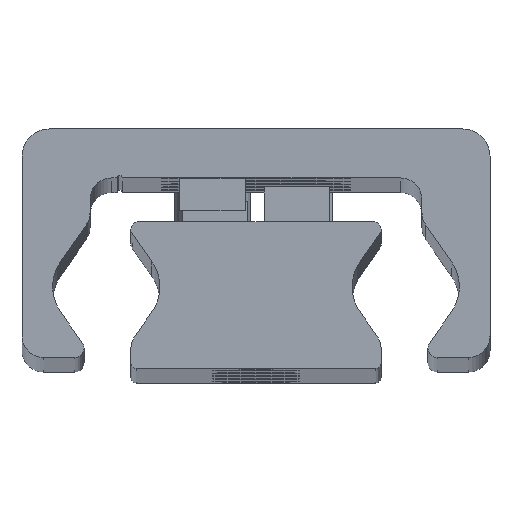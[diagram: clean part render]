
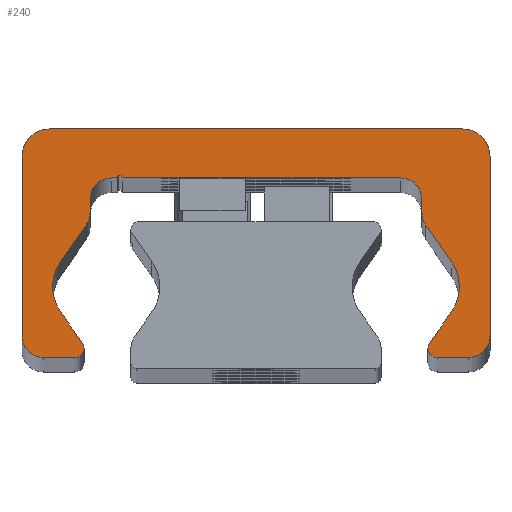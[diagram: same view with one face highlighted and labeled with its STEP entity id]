
A CAD part, top view. The second image highlights one B-rep face of the part: STEP entity #240.
In plain terms, the highlighted planar face has unit normal (0, 0, 1).
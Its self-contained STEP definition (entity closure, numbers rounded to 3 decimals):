
#240=ADVANCED_FACE('',(#638),#639,.T.);
#638=FACE_OUTER_BOUND('',#1037,.T.);
#639=PLANE('',#1038);
#1037=EDGE_LOOP('',(#2394,#2395,#2396,#2397,#2398,#2399,#2400,#2401,#2402,#2403,#2404,#2405,#2406,#2407,#2408,#2409,#2410,#2411,#2412,#2413,#2414,#2415,#2416,#2417,#2418,#2419,#2420,#2421,#2422,#2423));
#1038=AXIS2_PLACEMENT_3D('',#2424,#2425,#2426);
#2394=ORIENTED_EDGE('',*,*,#2699,.F.);
#2395=ORIENTED_EDGE('',*,*,#2902,.F.);
#2396=ORIENTED_EDGE('',*,*,#2685,.F.);
#2397=ORIENTED_EDGE('',*,*,#2901,.F.);
#2398=ORIENTED_EDGE('',*,*,#2897,.F.);
#2399=ORIENTED_EDGE('',*,*,#2894,.F.);
#2400=ORIENTED_EDGE('',*,*,#2891,.F.);
#2401=ORIENTED_EDGE('',*,*,#2888,.F.);
#2402=ORIENTED_EDGE('',*,*,#2885,.F.);
#2403=ORIENTED_EDGE('',*,*,#2882,.F.);
#2404=ORIENTED_EDGE('',*,*,#2879,.F.);
#2405=ORIENTED_EDGE('',*,*,#2876,.F.);
#2406=ORIENTED_EDGE('',*,*,#2873,.F.);
#2407=ORIENTED_EDGE('',*,*,#2870,.F.);
#2408=ORIENTED_EDGE('',*,*,#2691,.F.);
#2409=ORIENTED_EDGE('',*,*,#2868,.F.);
#2410=ORIENTED_EDGE('',*,*,#2693,.F.);
#2411=ORIENTED_EDGE('',*,*,#2867,.F.);
#2412=ORIENTED_EDGE('',*,*,#2863,.F.);
#2413=ORIENTED_EDGE('',*,*,#2860,.F.);
#2414=ORIENTED_EDGE('',*,*,#2857,.F.);
#2415=ORIENTED_EDGE('',*,*,#2854,.F.);
#2416=ORIENTED_EDGE('',*,*,#2851,.F.);
#2417=ORIENTED_EDGE('',*,*,#2848,.F.);
#2418=ORIENTED_EDGE('',*,*,#2845,.F.);
#2419=ORIENTED_EDGE('',*,*,#2842,.F.);
#2420=ORIENTED_EDGE('',*,*,#2839,.F.);
#2421=ORIENTED_EDGE('',*,*,#2836,.F.);
#2422=ORIENTED_EDGE('',*,*,#2833,.F.);
#2423=ORIENTED_EDGE('',*,*,#2830,.F.);
#2424=CARTESIAN_POINT('',(-0.023,14.187,770.0));
#2425=DIRECTION('',(0.0,0.0,1.0));
#2426=DIRECTION('',(1.0,0.0,0.0));
#2685=EDGE_CURVE('',#3264,#3267,#3268,.T.);
#2691=EDGE_CURVE('',#3277,#3273,#3279,.T.);
#2693=EDGE_CURVE('',#3280,#3283,#3284,.T.);
#2699=EDGE_CURVE('',#3293,#3289,#3295,.T.);
#2830=EDGE_CURVE('',#3289,#3506,#3507,.T.);
#2833=EDGE_CURVE('',#3506,#3511,#3512,.T.);
#2836=EDGE_CURVE('',#3511,#3516,#3517,.T.);
#2839=EDGE_CURVE('',#3516,#3521,#3522,.T.);
#2842=EDGE_CURVE('',#3521,#3526,#3527,.T.);
#2845=EDGE_CURVE('',#3526,#3531,#3532,.T.);
#2848=EDGE_CURVE('',#3531,#3536,#3537,.T.);
#2851=EDGE_CURVE('',#3536,#3541,#3542,.T.);
#2854=EDGE_CURVE('',#3541,#3546,#3547,.T.);
#2857=EDGE_CURVE('',#3546,#3551,#3552,.T.);
#2860=EDGE_CURVE('',#3551,#3556,#3557,.T.);
#2863=EDGE_CURVE('',#3556,#3561,#3562,.T.);
#2867=EDGE_CURVE('',#3561,#3280,#3567,.T.);
#2868=EDGE_CURVE('',#3283,#3277,#3568,.T.);
#2870=EDGE_CURVE('',#3273,#3570,#3571,.T.);
#2873=EDGE_CURVE('',#3570,#3575,#3576,.T.);
#2876=EDGE_CURVE('',#3575,#3580,#3581,.T.);
#2879=EDGE_CURVE('',#3580,#3585,#3586,.T.);
#2882=EDGE_CURVE('',#3585,#3590,#3591,.T.);
#2885=EDGE_CURVE('',#3590,#3595,#3596,.T.);
#2888=EDGE_CURVE('',#3595,#3600,#3601,.T.);
#2891=EDGE_CURVE('',#3600,#3605,#3606,.T.);
#2894=EDGE_CURVE('',#3605,#3610,#3611,.T.);
#2897=EDGE_CURVE('',#3610,#3615,#3616,.T.);
#2901=EDGE_CURVE('',#3615,#3264,#3621,.T.);
#2902=EDGE_CURVE('',#3267,#3293,#3622,.T.);
#3264=VERTEX_POINT('',#4104);
#3267=VERTEX_POINT('',#4108);
#3268=CIRCLE('',#4109,0.85);
#3273=VERTEX_POINT('',#4115);
#3277=VERTEX_POINT('',#4120);
#3279=CIRCLE('',#4123,0.85);
#3280=VERTEX_POINT('',#4124);
#3283=VERTEX_POINT('',#4128);
#3284=CIRCLE('',#4129,4.);
#3289=VERTEX_POINT('',#4135);
#3293=VERTEX_POINT('',#4140);
#3295=CIRCLE('',#4143,4.);
#3506=VERTEX_POINT('',#4420);
#3507=CIRCLE('',#4421,4.);
#3511=VERTEX_POINT('',#4426);
#3512=LINE('',#4427,#4428);
#3516=VERTEX_POINT('',#4434);
#3517=CIRCLE('',#4435,2.);
#3521=VERTEX_POINT('',#4440);
#3522=LINE('',#4441,#4442);
#3526=VERTEX_POINT('',#4448);
#3527=CIRCLE('',#4449,2.0);
#3531=VERTEX_POINT('',#4454);
#3532=LINE('',#4455,#4456);
#3536=VERTEX_POINT('',#4462);
#3537=CIRCLE('',#4463,0.25);
#3541=VERTEX_POINT('',#4468);
#3542=LINE('',#4469,#4470);
#3546=VERTEX_POINT('',#4476);
#3547=CIRCLE('',#4477,2.0);
#3551=VERTEX_POINT('',#4482);
#3552=LINE('',#4483,#4484);
#3556=VERTEX_POINT('',#4490);
#3557=CIRCLE('',#4491,2.0);
#3561=VERTEX_POINT('',#4496);
#3562=LINE('',#4497,#4498);
#3567=CIRCLE('',#4505,4.);
#3568=LINE('',#4506,#4507);
#3570=VERTEX_POINT('',#4510);
#3571=CIRCLE('',#4511,0.85);
#3575=VERTEX_POINT('',#4516);
#3576=LINE('',#4517,#4518);
#3580=VERTEX_POINT('',#4524);
#3581=CIRCLE('',#4525,2.);
#3585=VERTEX_POINT('',#4530);
#3586=LINE('',#4531,#4532);
#3590=VERTEX_POINT('',#4538);
#3591=CIRCLE('',#4539,2.5);
#3595=VERTEX_POINT('',#4544);
#3596=LINE('',#4545,#4546);
#3600=VERTEX_POINT('',#4552);
#3601=CIRCLE('',#4553,2.5);
#3605=VERTEX_POINT('',#4558);
#3606=LINE('',#4559,#4560);
#3610=VERTEX_POINT('',#4566);
#3611=CIRCLE('',#4567,2.);
#3615=VERTEX_POINT('',#4572);
#3616=LINE('',#4573,#4574);
#3621=CIRCLE('',#4581,0.85);
#3622=LINE('',#4582,#4583);
#4104=CARTESIAN_POINT('',(15.8,1.859,770.0));
#4108=CARTESIAN_POINT('',(15.922,2.298,770.0));
#4109=AXIS2_PLACEMENT_3D('',#5019,#5020,#5021);
#4115=CARTESIAN_POINT('',(-15.8,1.859,770.0));
#4120=CARTESIAN_POINT('',(-15.922,2.298,770.0));
#4123=AXIS2_PLACEMENT_3D('',#5031,#5032,#5033);
#4124=CARTESIAN_POINT('',(-18.688,7.509,770.0));
#4128=CARTESIAN_POINT('',(-17.964,5.214,770.0));
#4129=AXIS2_PLACEMENT_3D('',#5035,#5036,#5037);
#4135=CARTESIAN_POINT('',(18.688,7.509,770.0));
#4140=CARTESIAN_POINT('',(17.964,5.214,770.0));
#4143=AXIS2_PLACEMENT_3D('',#5047,#5048,#5049);
#4420=CARTESIAN_POINT('',(17.964,9.803,770.0));
#4421=AXIS2_PLACEMENT_3D('',#5308,#5309,#5310);
#4426=CARTESIAN_POINT('',(15.612,13.163,770.0));
#4427=CARTESIAN_POINT('',(15.612,13.163,770.0));
#4428=VECTOR('',#5315,1.0);
#4434=CARTESIAN_POINT('',(15.25,14.31,770.0));
#4435=AXIS2_PLACEMENT_3D('',#5318,#5319,#5320);
#4440=CARTESIAN_POINT('',(15.25,15.509,770.0));
#4441=CARTESIAN_POINT('',(15.25,15.509,770.0));
#4442=VECTOR('',#5325,1.0);
#4448=CARTESIAN_POINT('',(13.25,17.509,770.0));
#4449=AXIS2_PLACEMENT_3D('',#5328,#5329,#5330);
#4454=CARTESIAN_POINT('',(-12.25,17.509,770.0));
#4455=CARTESIAN_POINT('',(-12.25,17.509,770.0));
#4456=VECTOR('',#5335,1.0);
#4462=CARTESIAN_POINT('',(-12.75,17.509,770.0));
#4463=AXIS2_PLACEMENT_3D('',#5338,#5339,#5340);
#4468=CARTESIAN_POINT('',(-13.25,17.509,770.0));
#4469=CARTESIAN_POINT('',(-13.25,17.509,770.0));
#4470=VECTOR('',#5345,1.0);
#4476=CARTESIAN_POINT('',(-15.25,15.509,770.0));
#4477=AXIS2_PLACEMENT_3D('',#5348,#5349,#5350);
#4482=CARTESIAN_POINT('',(-15.25,14.31,770.0));
#4483=CARTESIAN_POINT('',(-15.25,14.31,770.0));
#4484=VECTOR('',#5355,1.0);
#4490=CARTESIAN_POINT('',(-15.612,13.163,770.0));
#4491=AXIS2_PLACEMENT_3D('',#5358,#5359,#5360);
#4496=CARTESIAN_POINT('',(-17.964,9.803,770.0));
#4497=CARTESIAN_POINT('',(-17.964,9.803,770.0));
#4498=VECTOR('',#5365,1.0);
#4505=AXIS2_PLACEMENT_3D('',#5371,#5372,#5373);
#4506=CARTESIAN_POINT('',(-15.922,2.298,770.0));
#4507=VECTOR('',#5374,1.0);
#4510=CARTESIAN_POINT('',(-16.65,1.009,770.0));
#4511=AXIS2_PLACEMENT_3D('',#5376,#5377,#5378);
#4516=CARTESIAN_POINT('',(-19.5,1.009,770.0));
#4517=CARTESIAN_POINT('',(-19.5,1.009,770.0));
#4518=VECTOR('',#5383,1.0);
#4524=CARTESIAN_POINT('',(-21.5,3.009,770.0));
#4525=AXIS2_PLACEMENT_3D('',#5386,#5387,#5388);
#4530=CARTESIAN_POINT('',(-21.5,19.509,770.0));
#4531=CARTESIAN_POINT('',(-21.5,19.509,770.0));
#4532=VECTOR('',#5393,1.0);
#4538=CARTESIAN_POINT('',(-19.0,22.009,770.0));
#4539=AXIS2_PLACEMENT_3D('',#5396,#5397,#5398);
#4544=CARTESIAN_POINT('',(19.0,22.009,770.0));
#4545=CARTESIAN_POINT('',(19.0,22.009,770.0));
#4546=VECTOR('',#5403,1.0);
#4552=CARTESIAN_POINT('',(21.5,19.509,770.0));
#4553=AXIS2_PLACEMENT_3D('',#5406,#5407,#5408);
#4558=CARTESIAN_POINT('',(21.5,3.009,770.0));
#4559=CARTESIAN_POINT('',(21.5,3.009,770.0));
#4560=VECTOR('',#5413,1.0);
#4566=CARTESIAN_POINT('',(19.5,1.009,770.0));
#4567=AXIS2_PLACEMENT_3D('',#5416,#5417,#5418);
#4572=CARTESIAN_POINT('',(16.65,1.009,770.0));
#4573=CARTESIAN_POINT('',(16.65,1.009,770.0));
#4574=VECTOR('',#5423,1.0);
#4581=AXIS2_PLACEMENT_3D('',#5429,#5430,#5431);
#4582=CARTESIAN_POINT('',(17.964,5.214,770.0));
#4583=VECTOR('',#5432,1.0);
#5019=CARTESIAN_POINT('',(16.65,1.859,770.0));
#5020=DIRECTION('',(0.0,0.0,-1.0));
#5021=DIRECTION('',(1.0,0.0,0.0));
#5031=CARTESIAN_POINT('',(-16.65,1.859,770.0));
#5032=DIRECTION('',(0.0,0.0,-1.0));
#5033=DIRECTION('',(1.0,0.0,0.0));
#5035=CARTESIAN_POINT('',(-14.688,7.509,770.0));
#5036=DIRECTION('',(0.0,0.0,1.0));
#5037=DIRECTION('',(1.0,0.0,0.0));
#5047=CARTESIAN_POINT('',(14.688,7.509,770.0));
#5048=DIRECTION('',(0.0,0.0,1.0));
#5049=DIRECTION('',(1.0,0.0,0.0));
#5308=CARTESIAN_POINT('',(14.688,7.509,770.0));
#5309=DIRECTION('',(0.0,0.0,1.0));
#5310=DIRECTION('',(1.0,0.0,0.0));
#5315=DIRECTION('',(-0.574,0.819,0.0));
#5318=CARTESIAN_POINT('',(17.25,14.31,770.0));
#5319=DIRECTION('',(0.0,0.0,-1.0));
#5320=DIRECTION('',(1.0,0.0,0.0));
#5325=DIRECTION('',(0.0,1.0,0.0));
#5328=CARTESIAN_POINT('',(13.25,15.509,770.0));
#5329=DIRECTION('',(0.0,0.0,1.0));
#5330=DIRECTION('',(1.0,0.0,0.0));
#5335=DIRECTION('',(-1.0,-0.0,-0.0));
#5338=CARTESIAN_POINT('',(-12.5,17.509,770.0));
#5339=DIRECTION('',(0.0,0.0,1.0));
#5340=DIRECTION('',(1.0,0.0,0.0));
#5345=DIRECTION('',(-1.0,-0.0,-0.0));
#5348=CARTESIAN_POINT('',(-13.25,15.509,770.0));
#5349=DIRECTION('',(0.0,0.0,1.0));
#5350=DIRECTION('',(1.0,0.0,0.0));
#5355=DIRECTION('',(-0.0,-1.0,-0.0));
#5358=CARTESIAN_POINT('',(-17.25,14.31,770.0));
#5359=DIRECTION('',(0.0,0.0,-1.0));
#5360=DIRECTION('',(1.0,0.0,0.0));
#5365=DIRECTION('',(-0.574,-0.819,-0.0));
#5371=CARTESIAN_POINT('',(-14.688,7.509,770.0));
#5372=DIRECTION('',(0.0,0.0,1.0));
#5373=DIRECTION('',(1.0,0.0,0.0));
#5374=DIRECTION('',(0.574,-0.819,0.0));
#5376=CARTESIAN_POINT('',(-16.65,1.859,770.0));
#5377=DIRECTION('',(0.0,0.0,-1.0));
#5378=DIRECTION('',(1.0,0.0,0.0));
#5383=DIRECTION('',(-1.0,-0.0,-0.0));
#5386=CARTESIAN_POINT('',(-19.5,3.009,770.0));
#5387=DIRECTION('',(0.0,0.0,-1.0));
#5388=DIRECTION('',(1.0,0.0,0.0));
#5393=DIRECTION('',(0.0,1.0,0.0));
#5396=CARTESIAN_POINT('',(-19.0,19.509,770.0));
#5397=DIRECTION('',(0.0,0.0,-1.0));
#5398=DIRECTION('',(1.0,0.0,0.0));
#5403=DIRECTION('',(1.0,0.0,0.0));
#5406=CARTESIAN_POINT('',(19.0,19.509,770.0));
#5407=DIRECTION('',(0.0,0.0,-1.0));
#5408=DIRECTION('',(1.0,0.0,0.0));
#5413=DIRECTION('',(-0.0,-1.0,-0.0));
#5416=CARTESIAN_POINT('',(19.5,3.009,770.0));
#5417=DIRECTION('',(0.0,0.0,-1.0));
#5418=DIRECTION('',(1.0,0.0,0.0));
#5423=DIRECTION('',(-1.0,-0.0,-0.0));
#5429=CARTESIAN_POINT('',(16.65,1.859,770.0));
#5430=DIRECTION('',(0.0,0.0,-1.0));
#5431=DIRECTION('',(1.0,0.0,0.0));
#5432=DIRECTION('',(0.574,0.819,0.0));
